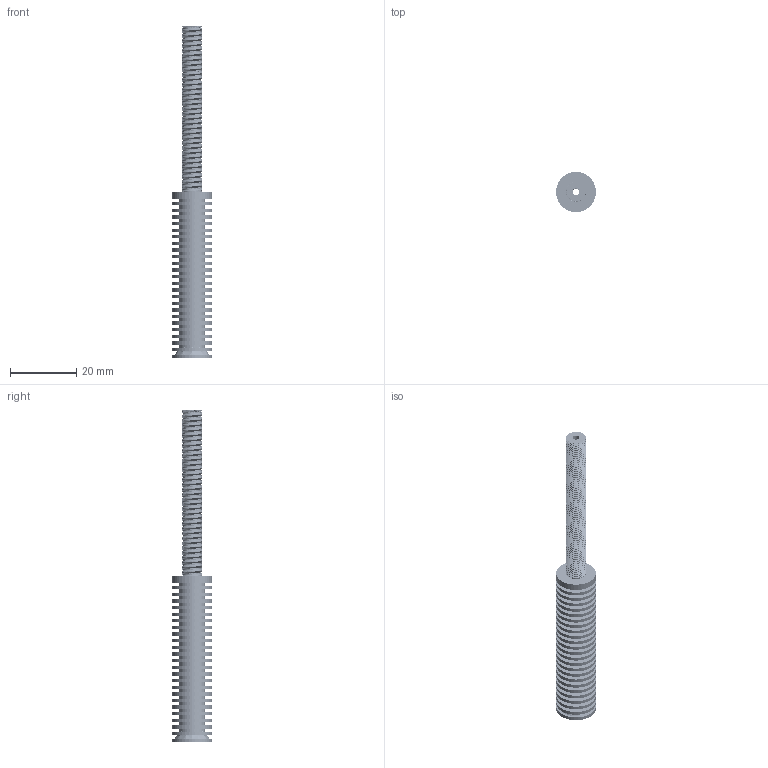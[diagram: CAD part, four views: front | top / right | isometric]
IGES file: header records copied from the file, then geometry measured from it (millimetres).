
Start section: SolidWorks IGES file using analytic representation for surfaces
Global section: file name: C:\Users\imaaa\Documents\Thread Rod raw.IGS; native system: SolidWorks 2024; preprocessor: SolidWorks 2024; author: imaaa; date: 260522.225402; units: millimetre
Bounding box: 12 x 12 x 100 mm (x, y, z)
Surface area: 7342.3 mm2 (no closed solid volume)
Topology: 0 solids, 0 shells, 560 faces, 13293 edges, 13293 vertices
Faces by surface type: revolution 503, bspline 57
